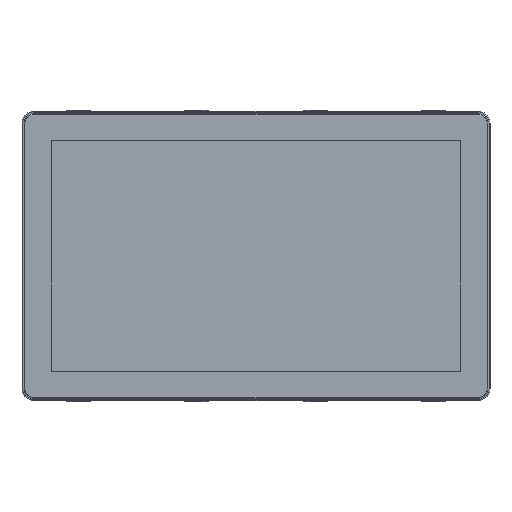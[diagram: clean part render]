
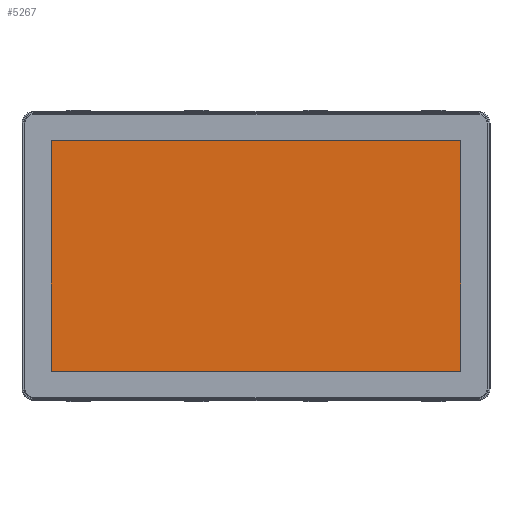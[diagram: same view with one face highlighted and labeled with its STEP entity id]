
A CAD part, top view. The second image highlights one B-rep face of the part: STEP entity #5267.
In plain terms, the highlighted planar face has unit normal (0, 0, 1).
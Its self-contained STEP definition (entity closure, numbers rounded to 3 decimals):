
#316 = EDGE_CURVE ( 'NONE', #78285, #34724, #36859, .T. ) ;
#5267 = ADVANCED_FACE ( 'NONE', ( #11211 ), #78265, .F. ) ;
#6799 = ORIENTED_EDGE ( 'NONE', *, *, #142938, .T. ) ;
#11211 = FACE_OUTER_BOUND ( 'NONE', #45627, .T. ) ;
#20113 = CARTESIAN_POINT ( 'NONE',  ( 172.615, 97.27, 0. ) ) ;
#29642 = ORIENTED_EDGE ( 'NONE', *, *, #65105, .T. ) ;
#34724 = VERTEX_POINT ( 'NONE', #20113 ) ;
#36859 = LINE ( 'NONE', #100569, #89061 ) ;
#41495 = CARTESIAN_POINT ( 'NONE',  ( 172.615, -97.27, 0. ) ) ;
#45627 = EDGE_LOOP ( 'NONE', ( #109142, #123760, #6799, #29642 ) ) ;
#50228 = DIRECTION ( 'NONE',  ( 0., 0., -1. ) ) ;
#59078 = LINE ( 'NONE', #99010, #150140 ) ;
#63923 = LINE ( 'NONE', #90236, #77827 ) ;
#65105 = EDGE_CURVE ( 'NONE', #126219, #151395, #63923, .T. ) ;
#65944 = CARTESIAN_POINT ( 'NONE',  ( -172.615, -97.27, 0. ) ) ;
#74260 = DIRECTION ( 'NONE',  ( 0., 1., 0. ) ) ;
#77827 = VECTOR ( 'NONE', #141957, 1000. ) ;
#78265 = PLANE ( 'NONE',  #138746 ) ;
#78285 = VERTEX_POINT ( 'NONE', #41495 ) ;
#89061 = VECTOR ( 'NONE', #74260, 1000. ) ;
#90160 = DIRECTION ( 'NONE',  ( -1., 0., 0. ) ) ;
#90236 = CARTESIAN_POINT ( 'NONE',  ( -172.615, -97.27, 0. ) ) ;
#99010 = CARTESIAN_POINT ( 'NONE',  ( -172.615, 97.27, 0. ) ) ;
#100569 = CARTESIAN_POINT ( 'NONE',  ( 172.615, -97.27, 0. ) ) ;
#109142 = ORIENTED_EDGE ( 'NONE', *, *, #149177, .T. ) ;
#115619 = CARTESIAN_POINT ( 'NONE',  ( -187.5, -112., 0. ) ) ;
#123760 = ORIENTED_EDGE ( 'NONE', *, *, #316, .T. ) ;
#126219 = VERTEX_POINT ( 'NONE', #136171 ) ;
#130441 = LINE ( 'NONE', #65944, #138565 ) ;
#136171 = CARTESIAN_POINT ( 'NONE',  ( -172.615, 97.27, 0. ) ) ;
#138565 = VECTOR ( 'NONE', #158456, 1000. ) ;
#138746 = AXIS2_PLACEMENT_3D ( 'NONE', #115619, #50228, #90160 ) ;
#141957 = DIRECTION ( 'NONE',  ( 0., -1., 0. ) ) ;
#142938 = EDGE_CURVE ( 'NONE', #34724, #126219, #59078, .T. ) ;
#143453 = CARTESIAN_POINT ( 'NONE',  ( -172.615, -97.27, 0. ) ) ;
#149177 = EDGE_CURVE ( 'NONE', #151395, #78285, #130441, .T. ) ;
#150140 = VECTOR ( 'NONE', #152419, 1000. ) ;
#151395 = VERTEX_POINT ( 'NONE', #143453 ) ;
#152419 = DIRECTION ( 'NONE',  ( -1., 0., 0. ) ) ;
#158456 = DIRECTION ( 'NONE',  ( 1., 0., 0. ) ) ;
